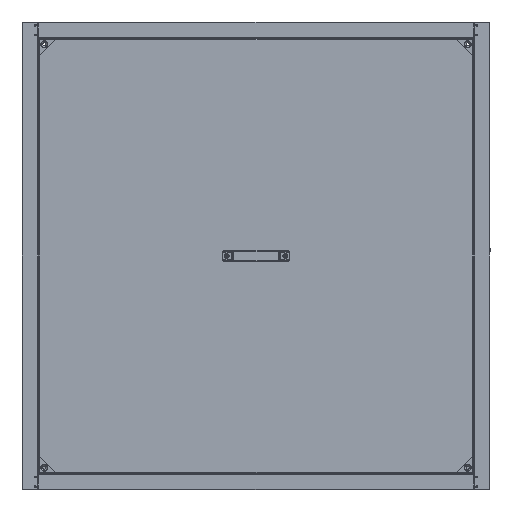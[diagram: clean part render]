
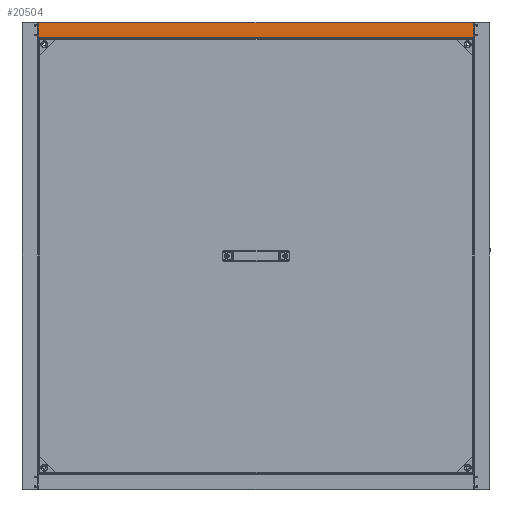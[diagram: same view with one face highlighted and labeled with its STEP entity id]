
A CAD part, left-side view. The second image highlights one B-rep face of the part: STEP entity #20504.
In plain terms, the highlighted planar face has unit normal (-1, 0, 0).
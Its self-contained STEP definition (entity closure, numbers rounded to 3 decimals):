
#932 = VECTOR ( 'NONE', #27228, 1000. ) ;
#1018 = LINE ( 'NONE', #1899, #27923 ) ;
#1899 = CARTESIAN_POINT ( 'NONE',  ( -600., 557.75, 560.7 ) ) ;
#2198 = ORIENTED_EDGE ( 'NONE', *, *, #20092, .T. ) ;
#2935 = EDGE_CURVE ( 'NONE', #19469, #8770, #1018, .T. ) ;
#3714 = LINE ( 'NONE', #13744, #22122 ) ;
#3822 = CARTESIAN_POINT ( 'NONE',  ( -600., 557.75, 598. ) ) ;
#3860 = ORIENTED_EDGE ( 'NONE', *, *, #6587, .F. ) ;
#3870 = CARTESIAN_POINT ( 'NONE',  ( -600., 558.463, 598. ) ) ;
#5375 = FACE_OUTER_BOUND ( 'NONE', #14473, .T. ) ;
#6587 = EDGE_CURVE ( 'NONE', #8770, #13079, #31676, .T. ) ;
#6776 = PLANE ( 'NONE',  #6814 ) ;
#6814 = AXIS2_PLACEMENT_3D ( 'NONE', #19712, #27681, #12031 ) ;
#8770 = VERTEX_POINT ( 'NONE', #13011 ) ;
#8856 = CARTESIAN_POINT ( 'NONE',  ( -600., -558.463, 560.7 ) ) ;
#9558 = EDGE_CURVE ( 'NONE', #31208, #11607, #3714, .T. ) ;
#9659 = VECTOR ( 'NONE', #32754, 1000. ) ;
#11400 = CARTESIAN_POINT ( 'NONE',  ( -600., -558.463, 598. ) ) ;
#11607 = VERTEX_POINT ( 'NONE', #23019 ) ;
#12031 = DIRECTION ( 'NONE',  ( 0., 0., -1. ) ) ;
#13011 = CARTESIAN_POINT ( 'NONE',  ( -600., 558.463, 560.7 ) ) ;
#13079 = VERTEX_POINT ( 'NONE', #3870 ) ;
#13744 = CARTESIAN_POINT ( 'NONE',  ( -600., 557.75, 598. ) ) ;
#14473 = EDGE_LOOP ( 'NONE', ( #3860, #21299, #31996, #2198, #32019, #27879 ) ) ;
#16174 = VERTEX_POINT ( 'NONE', #11400 ) ;
#16658 = LINE ( 'NONE', #19663, #9659 ) ;
#17140 = CARTESIAN_POINT ( 'NONE',  ( -600., 558.463, 600. ) ) ;
#17273 = LINE ( 'NONE', #3822, #932 ) ;
#17569 = EDGE_CURVE ( 'NONE', #19469, #16174, #16658, .T. ) ;
#17824 = VECTOR ( 'NONE', #30115, 1000. ) ;
#18028 = DIRECTION ( 'NONE',  ( 0., 1., 0. ) ) ;
#19469 = VERTEX_POINT ( 'NONE', #8856 ) ;
#19663 = CARTESIAN_POINT ( 'NONE',  ( -600., -558.463, 600. ) ) ;
#19712 = CARTESIAN_POINT ( 'NONE',  ( -600., 557.75, 600. ) ) ;
#20092 = EDGE_CURVE ( 'NONE', #16174, #11607, #30730, .T. ) ;
#20428 = EDGE_CURVE ( 'NONE', #13079, #31208, #17273, .T. ) ;
#20504 = ADVANCED_FACE ( 'NONE', ( #5375 ), #6776, .F. ) ;
#21299 = ORIENTED_EDGE ( 'NONE', *, *, #2935, .F. ) ;
#22122 = VECTOR ( 'NONE', #26753, 1000. ) ;
#22788 = CARTESIAN_POINT ( 'NONE',  ( -600., 557.75, 598. ) ) ;
#23019 = CARTESIAN_POINT ( 'NONE',  ( -600., -557.75, 598. ) ) ;
#23814 = VECTOR ( 'NONE', #18028, 1000. ) ;
#26753 = DIRECTION ( 'NONE',  ( 0., -1., 0. ) ) ;
#27228 = DIRECTION ( 'NONE',  ( 0., -1., 0. ) ) ;
#27681 = DIRECTION ( 'NONE',  ( 1., 0., 0. ) ) ;
#27879 = ORIENTED_EDGE ( 'NONE', *, *, #20428, .F. ) ;
#27923 = VECTOR ( 'NONE', #30643, 1000. ) ;
#28376 = CARTESIAN_POINT ( 'NONE',  ( -600., -557.75, 598. ) ) ;
#30115 = DIRECTION ( 'NONE',  ( 0., 0., 1. ) ) ;
#30643 = DIRECTION ( 'NONE',  ( 0., 1., 0. ) ) ;
#30730 = LINE ( 'NONE', #28376, #23814 ) ;
#31208 = VERTEX_POINT ( 'NONE', #22788 ) ;
#31676 = LINE ( 'NONE', #17140, #17824 ) ;
#31996 = ORIENTED_EDGE ( 'NONE', *, *, #17569, .T. ) ;
#32019 = ORIENTED_EDGE ( 'NONE', *, *, #9558, .F. ) ;
#32754 = DIRECTION ( 'NONE',  ( 0., 0., 1. ) ) ;
